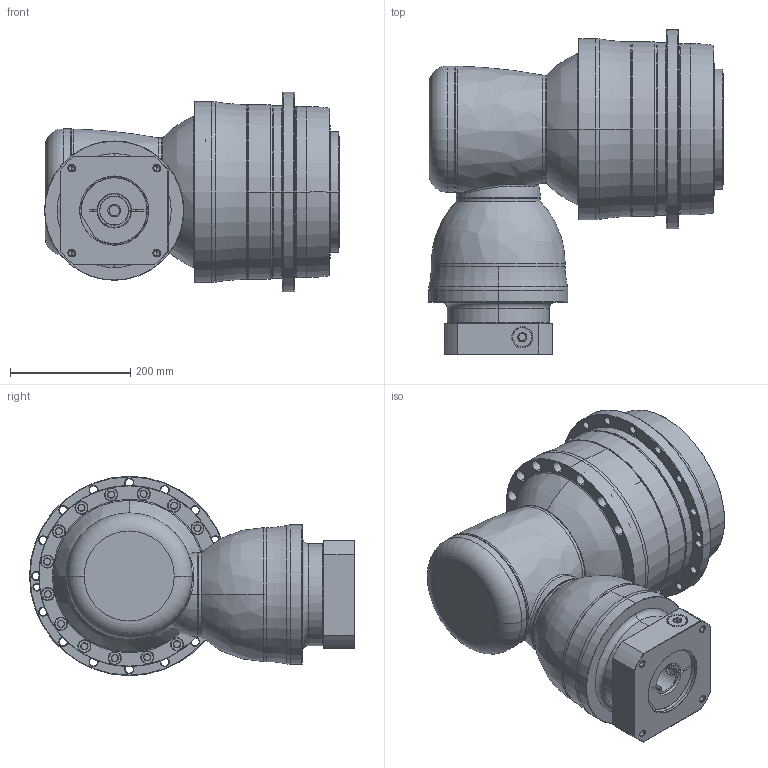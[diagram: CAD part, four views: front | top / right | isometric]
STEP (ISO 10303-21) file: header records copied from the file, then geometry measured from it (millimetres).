
FILE_DESCRIPTION((''),'2;1');
FILE_NAME('AHK285_4ST_48-P0409B00101_ASM','2016-08-24T',('d01943'),(''),'PRO/ENGINEER BY PARAMETRIC TECHNOLOGY CORPORATION, 2008410','PRO/ENGINEER BY PARAMETRIC TECHNOLOGY CORPORATION, 2008410','');
FILE_SCHEMA(('CONFIG_CONTROL_DESIGN'));
Length unit declared in the file: millimetre
Products named in the file (12): P1008600002; P1832800001; P0278800003; P0359800003; P1315600001; P1007600001; P1317600601; P0409B00101; P0503B00016; P0912506201; 21711426021; AHK285_4ST_48-P0409B00101_ASM
Assembly tree (11 placements, depth 2):
  AHK285_4ST_48-P0409B00101_ASM
    P1008600002
    P1832800001
    P0278800003
    P0359800003
    P1315600001
    P1007600001
    P1317600601
    P0409B00101
    P0503B00016
    P0912506201
    21711426021
Bounding box: 491 x 541 x 332 mm (x, y, z)
Volume: 24330758.6 mm3; surface area: 1728662.4 mm2
Topology: 12 solids, 12 shells, 1063 faces, 2395 edges, 1383 vertices
Faces by surface type: cone 382, cylinder 374, plane 144, torus 124, bspline 37, sphere 2
Entity records: 36386 total; most frequent: CARTESIAN_POINT 12053, DIRECTION 5594, ORIENTED_EDGE 4646, AXIS2_PLACEMENT_3D 2383, EDGE_CURVE 2323, VERTEX_POINT 1383, CIRCLE 1334, EDGE_LOOP 1260
